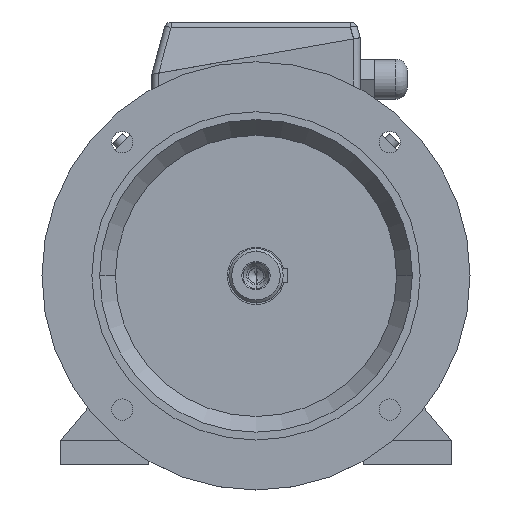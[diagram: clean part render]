
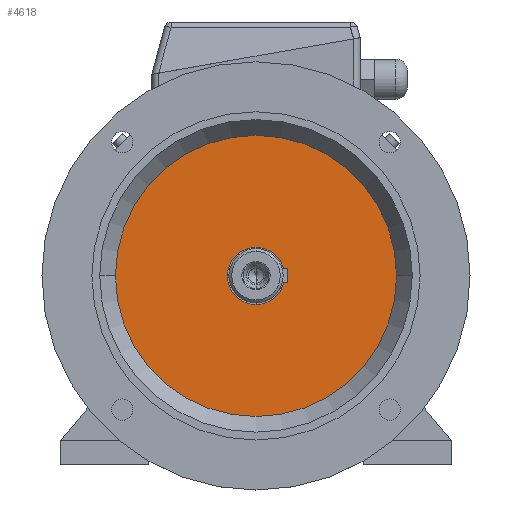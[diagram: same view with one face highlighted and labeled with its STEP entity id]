
A CAD part, top view. The second image highlights one B-rep face of the part: STEP entity #4618.
In plain terms, the highlighted planar face has unit normal (0, 0, 1).
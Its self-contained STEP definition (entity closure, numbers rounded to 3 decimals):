
#1040 = FACE_OUTER_BOUND ( 'NONE', #4355, .T. ) ;
#1041 = PLANE ( 'NONE',  #1042 ) ;
#1042 = AXIS2_PLACEMENT_3D ( 'NONE', #1043, #1044, #1045 ) ;
#1043 = CARTESIAN_POINT ( 'NONE',  ( 0., 98.5, 47. ) ) ;
#1044 = DIRECTION ( 'NONE',  ( 0., 0., 1. ) ) ;
#1045 = DIRECTION ( 'NONE',  ( 1., 0., 0. ) ) ;
#1912 = CIRCLE ( 'NONE', #1913, 98.5 ) ;
#1913 = AXIS2_PLACEMENT_3D ( 'NONE', #1914, #1915, #1916 ) ;
#1914 = CARTESIAN_POINT ( 'NONE',  ( 0., 0., 47. ) ) ;
#1915 = DIRECTION ( 'NONE',  ( 0., 0., -1. ) ) ;
#1916 = DIRECTION ( 'NONE',  ( -1., 0., 0. ) ) ;
#3779 = ORIENTED_EDGE ( 'NONE', *, *, #10706, .F. ) ;
#4355 = EDGE_LOOP ( 'NONE', ( #3779, #10438 ) ) ;
#4618 = ADVANCED_FACE ( 'NONE', ( #1040 ), #1041, .T. ) ;
#6229 = EDGE_CURVE ( 'NONE', #10582, #10651, #1912, .T. ) ;
#6445 = CARTESIAN_POINT ( 'NONE',  ( -98.5, 0., 47. ) ) ;
#6589 = CARTESIAN_POINT ( 'NONE',  ( 98.5, 0., 47. ) ) ;
#6720 = CIRCLE ( 'NONE', #6721, 98.5 ) ;
#6721 = AXIS2_PLACEMENT_3D ( 'NONE', #6722, #6723, #6724 ) ;
#6722 = CARTESIAN_POINT ( 'NONE',  ( 0., 0., 47. ) ) ;
#6723 = DIRECTION ( 'NONE',  ( 0., 0., -1. ) ) ;
#6724 = DIRECTION ( 'NONE',  ( -1., 0., 0. ) ) ;
#10438 = ORIENTED_EDGE ( 'NONE', *, *, #6229, .F. ) ;
#10582 = VERTEX_POINT ( 'NONE', #6445 ) ;
#10651 = VERTEX_POINT ( 'NONE', #6589 ) ;
#10706 = EDGE_CURVE ( 'NONE', #10651, #10582, #6720, .T. ) ;
